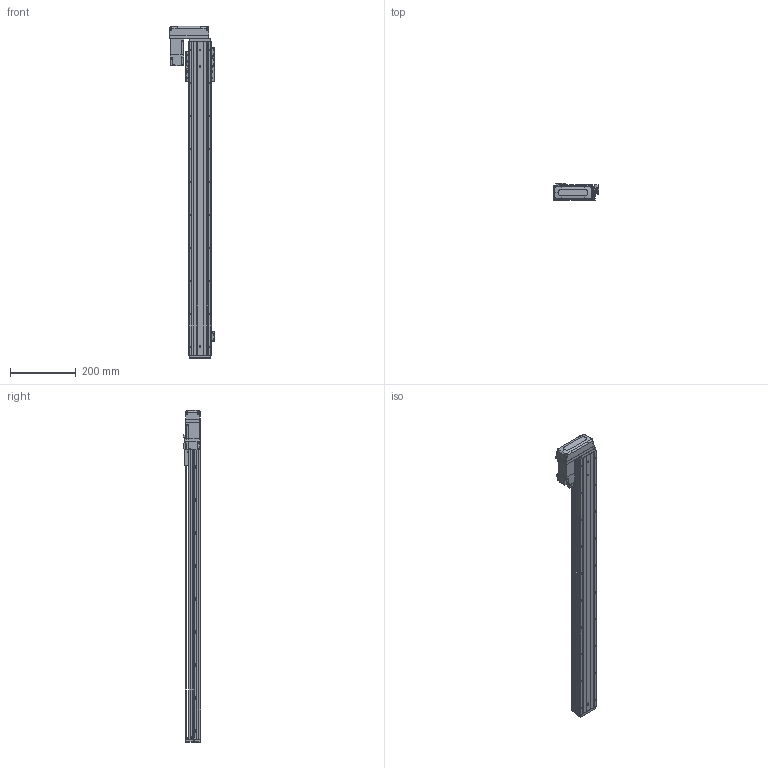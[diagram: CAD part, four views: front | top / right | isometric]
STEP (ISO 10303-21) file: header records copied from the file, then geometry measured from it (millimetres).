
FILE_DESCRIPTION (( 'STEP AP203' ), '1' );
FILE_NAME ('KTHAL60-800-BR-M10-C4L.step', '2022-03-19T08:45:44', ( '微软用户' ), ( '微软中国' ), 'SwSTEP 2.0', 'SolidWorks 2020', '' );
FILE_SCHEMA (( 'CONFIG_CONTROL_DESIGN' ));
Length unit declared in the file: millimetre
Products named in the file (18): KTHA60-001_950; CTHA60-017; CTHA60-015-2_CTHA60-015-2; KTHLA60-002; CTHA60-021; CTHA60-033; KTHA60-004; GBT 70.1-M4×16; GBT 70.1-M3×15; KTHA60-005; GBT77-2000M3-3; KTHAL60-800-BR-M10-C4L; GB¨uT 70.2-M3¡Á5_M3¡Á6; GBT 70.1-M3℅6; GBT 70.3-M3℅6; CTHA60-016; EE_SX911P_R; HG-KR13（三菱）
Assembly tree (51 placements, depth 2):
  KTHAL60-800-BR-M10-C4L
    KTHA60-001_950
    KTHLA60-002
    KTHA60-004
    KTHA60-005
    GB¨uT 70.2-M3¡Á5_M3¡Á6  x5
    GBT 70.3-M3℅6  x4
    EE_SX911P_R  x3
    CTHA60-017  x3
    CTHA60-021  x2
    GBT 70.1-M4×16  x10
    GBT77-2000M3-3  x6
    GBT 70.1-M3℅6  x6
    CTHA60-016
    HG-KR13（三菱）
    CTHA60-015-2_CTHA60-015-2
    CTHA60-033
    GBT 70.1-M3×15  x4
Bounding box: 137.82 x 52.3 x 1007 mm (x, y, z)
Volume: 2026110.7 mm3; surface area: 501113.3 mm2
Topology: 54 solids, 54 shells, 2355 faces, 5611 edges, 3449 vertices
Faces by surface type: plane 1348, cylinder 577, cone 292, torus 98, bspline 26, sphere 14
Entity records: 41931 total; most frequent: CARTESIAN_POINT 7896, DIRECTION 6573, ORIENTED_EDGE 6366, EDGE_CURVE 3183, AXIS2_PLACEMENT_3D 2193, VECTOR 2187, LINE 2187, VERTEX_POINT 1998
